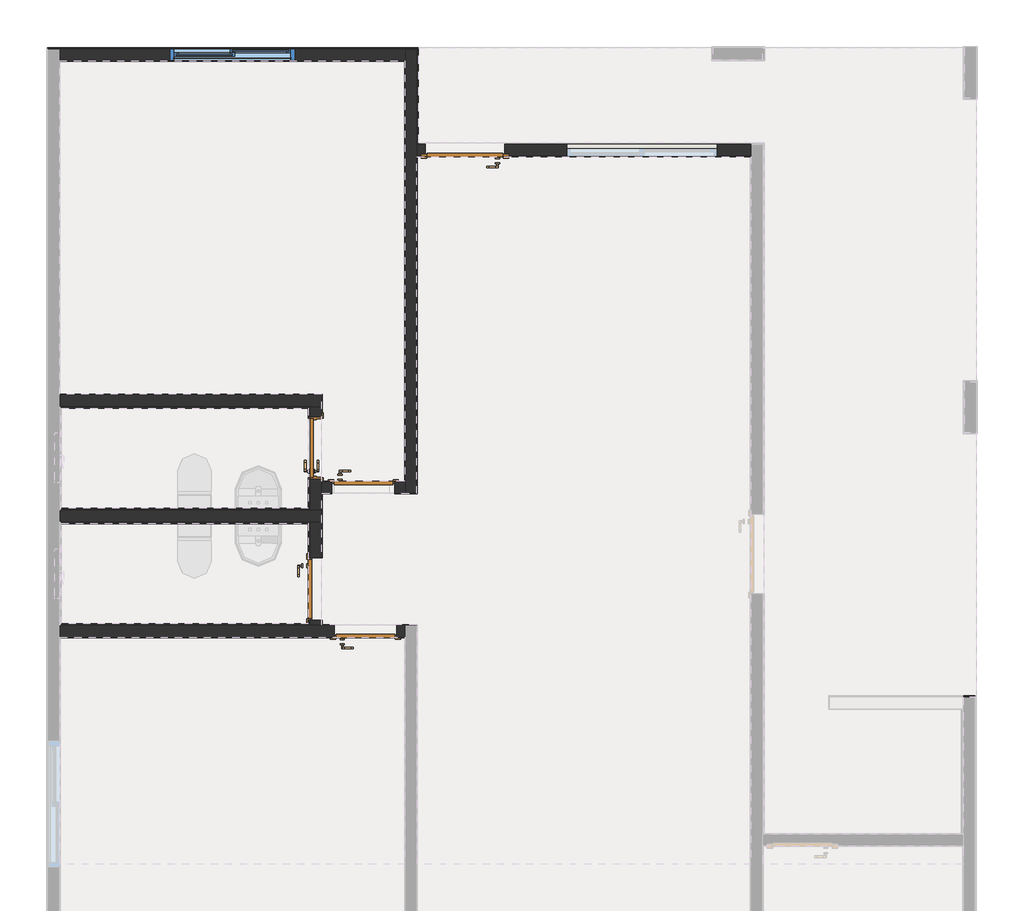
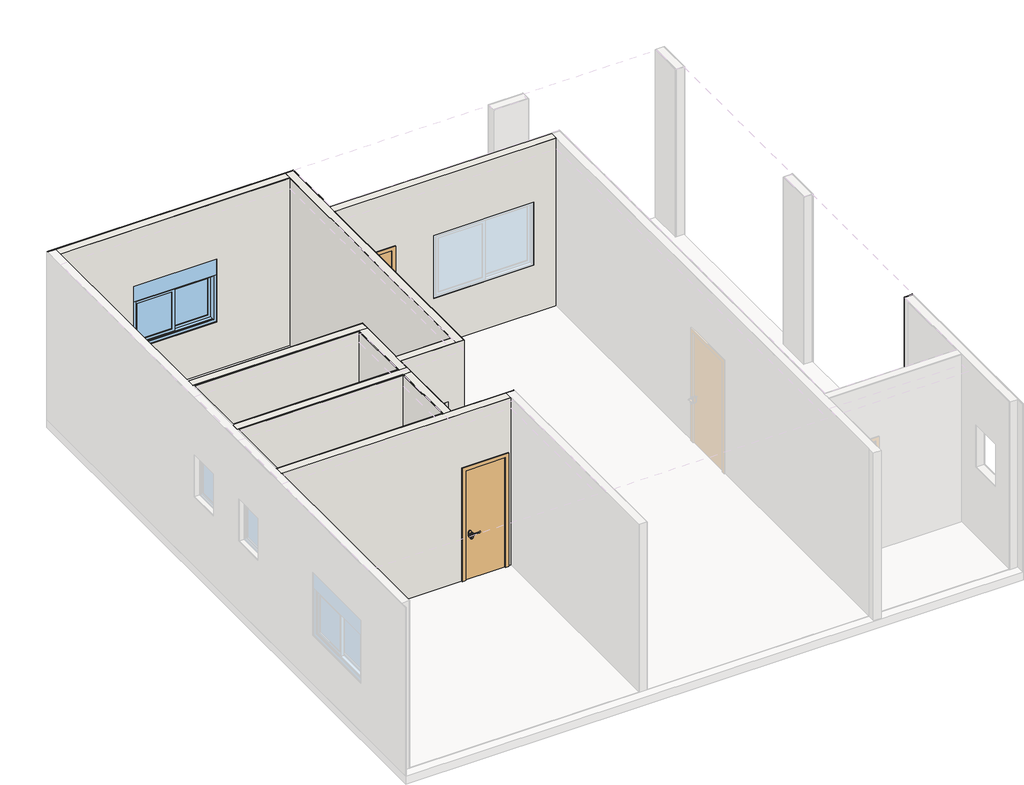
# One storey, part 2 of 3: 29 walls, 5 doors, 1 window.
"""IFC4 building model written with IfcOpenShell, lengths in millimetres."""

from ifc_helpers import new_model, si_unit, frame, origin, origin_with_axes, place, context, project, spatial, polyline, outline, extrude, faceted_brep, transform, mapped, element, save
from components import porta_de_madeira_interna_70_x_210_porta_de_madeira_interna_d0067c94, porta_de_madeira_interna_70_x_210_porta_de_madeira_interna_7f2c299e, porta_de_madeira_interna_70_x_210_porta_de_madeira_interna_a3714ee7, porta_de_madeira_interna_70_x_210_porta_de_madeira_interna_c85fdb76, porta_de_madeira_interna_90x210_porta_de_madeira_interna_90_e78495d9, window_150x120_d34a449e

model = new_model("IFC4")

# Units and contexts
model_context = context("Model", 3, world=origin())
ifc_project = project(units=[si_unit("LENGTHUNIT", "METRE", prefix="MILLI")], contexts=[model_context])

# Site, building, storey
site = spatial("IfcSite", under=ifc_project)
building = spatial("IfcBuilding", under=site)
storey = spatial("IfcBuildingStorey", under=building, Name="Térreo", Elevation=0.0)

# Doors
placement = place(None, origin())
porta_de_madeira_interna_70_x_210_porta_de_madeira_interna_shape = porta_de_madeira_interna_70_x_210_porta_de_madeira_interna_d0067c94(model_context)
element("IfcDoor", 1, ObjectType="Porta de Madeira Interna 70 x 210 : Porta de Madeira Interna 70 x 210", at=placement, inside=storey, context=model_context, shape_type="MappedRepresentation", body=[
    mapped(porta_de_madeira_interna_70_x_210_porta_de_madeira_interna_shape, transform((34932.8220535, 10452.9995833, 0.0), x_axis=(0.0, 1.0, 0.0), y_axis=(-1.0, 0.0, 0.0), z_axis=(0.0, 0.0, 1.0))),
])
porta_de_madeira_interna_70_x_210_porta_de_madeira_interna_2_shape = porta_de_madeira_interna_70_x_210_porta_de_madeira_interna_7f2c299e(model_context)
element("IfcDoor", 2, ObjectType="Porta de Madeira Interna 70 x 210 : Porta de Madeira Interna 70 x 210", at=placement, inside=storey, context=model_context, shape_type="MappedRepresentation", body=[
    mapped(porta_de_madeira_interna_70_x_210_porta_de_madeira_interna_2_shape, transform((35530.9970535, 8181.8245833, 0.0), x_axis=(1.0, 0.0, 0.0), y_axis=(0.0, 1.0, 0.0), z_axis=(0.0, 0.0, 1.0))),
])
porta_de_madeira_interna_70_x_210_porta_de_madeira_interna_3_shape = porta_de_madeira_interna_70_x_210_porta_de_madeira_interna_a3714ee7(model_context)
element("IfcDoor", 3, ObjectType="Porta de Madeira Interna 70 x 210 : Porta de Madeira Interna 70 x 210", at=placement, inside=storey, context=model_context, shape_type="MappedRepresentation", body=[
    mapped(porta_de_madeira_interna_70_x_210_porta_de_madeira_interna_3_shape, transform((35502.9970535, 10054.1745833, 0.0), x_axis=(1.0, 0.0, 0.0), y_axis=(0.0, 1.0, 0.0), z_axis=(0.0, 0.0, 1.0))),
])
porta_de_madeira_interna_70_x_210_porta_de_madeira_interna_4_shape = porta_de_madeira_interna_70_x_210_porta_de_madeira_interna_c85fdb76(model_context)
element("IfcDoor", 4, ObjectType="Porta de Madeira Interna 70 x 210 : Porta de Madeira Interna 70 x 210", at=placement, inside=storey, context=model_context, shape_type="MappedRepresentation", body=[
    mapped(porta_de_madeira_interna_70_x_210_porta_de_madeira_interna_4_shape, transform((34852.8220535, 8762.9995833, 0.0), x_axis=(0.0, -1.0, 0.0), y_axis=(1.0, 0.0, 0.0), z_axis=(0.0, 0.0, 1.0))),
])
porta_de_madeira_interna_90x210_porta_de_madeira_interna_90_shape = porta_de_madeira_interna_90x210_porta_de_madeira_interna_90_e78495d9(model_context)
element("IfcDoor", 5, ObjectType="Porta de Madeira Interna 90x210 : Porta de Madeira Interna 90 x 210", at=placement, inside=storey, context=model_context, shape_type="MappedRepresentation", body=[
    mapped(porta_de_madeira_interna_90x210_porta_de_madeira_interna_90_shape, transform((36720.9970535, 13941.8245833, 0.0), x_axis=(-1.0, 0.0, 0.0), y_axis=(0.0, -1.0, 0.0), z_axis=(0.0, 0.0, 1.0))),
])

# Walls
element("IfcWall", 6, ObjectType="Alvenaria Estrutural", at=placement, inside=storey, context=model_context, shape_type="Brep", body=[
    faceted_brep([(36005.9970535, 15227.9995833, 0.0), (36005.9970535, 15087.9995833, 0.0), (36005.9970535, 15081.9995833, 0.0), (36005.9970535, 10047.9995833, 0.0), (36005.9970535, 9907.9995833, 0.0), (36005.9970535, 9907.9995833, 3200.0), (36005.9970535, 10047.9995833, 3200.0), (36005.9970535, 15081.9995833, 3200.0), (36005.9970535, 15087.9995833, 3200.0), (36005.9970535, 15227.9995833, 3200.0), (36145.9970535, 15227.9995833, 0.0), (36145.9970535, 15227.9995833, 3200.0), (36145.9970535, 14103.9995833, 3200.0), (36145.9970535, 14087.9995833, 3200.0), (36145.9970535, 13947.9995833, 3200.0), (36145.9970535, 13941.9995833, 3200.0), (36145.9970535, 9907.9995833, 3200.0), (36145.9970535, 9907.9995833, 0.0), (36145.9970535, 13941.9995833, 0.0), (36145.9970535, 13947.9995833, 0.0), (36145.9970535, 14087.9995833, 0.0), (36145.9970535, 14103.9995833, 0.0)], [[[0, 1, 2, 3, 4, 5, 6, 7, 8, 9]], [[10, 11, 12, 13, 14, 15, 16, 17, 18, 19, 20, 21]], [[1, 0, 10, 21, 20, 19, 18, 17, 4, 3, 2]], [[6, 5, 16, 15, 14, 13, 12, 11, 9, 8, 7]], [[0, 9, 11, 10]], [[5, 4, 17, 16]]]),
])
element("IfcWall", 7, ObjectType="Alvenaria Estrutural", at=placement, inside=storey, context=model_context, shape_type="Brep", body=[
    faceted_brep([(35005.9970535, 11087.9995833, 0.0), (31865.9970535, 11087.9995833, 0.0), (31865.9970535, 11087.9995833, 3200.0), (35005.9970535, 11087.9995833, 3200.0), (35005.9970535, 10947.9995833, 0.0), (35005.9970535, 10947.9995833, 3200.0), (34865.9970535, 10947.9995833, 3200.0), (31885.9970535, 10947.9995833, 3200.0), (31865.9970535, 10947.9995833, 3200.0), (31865.9970535, 10947.9995833, 0.0), (31885.9970535, 10947.9995833, 0.0), (34865.9970535, 10947.9995833, 0.0)], [[[0, 1, 2, 3]], [[4, 5, 6, 7, 8, 9, 10, 11]], [[1, 0, 4, 11, 10, 9]], [[3, 2, 8, 7, 6, 5]], [[2, 1, 9, 8]], [[0, 3, 5, 4]]]),
])
element("IfcWall", 8, ObjectType="Alvenaria Estrutural", at=placement, inside=storey, context=model_context, shape_type="Brep", body=[
    faceted_brep([(31865.9970535, 8327.9995833, 3200.0), (31885.9970535, 8327.9995833, 3200.0), (34845.9970535, 8327.9995833, 3200.0), (34865.9970535, 8327.9995833, 3200.0), (35005.9970535, 8327.9995833, 3200.0), (36005.9970535, 8327.9995833, 3200.0), (36005.9970535, 8327.9995833, 0.0), (35905.9970535, 8327.9995833, 0.0), (35905.9970535, 8327.9995833, 2125.0), (35155.9970535, 8327.9995833, 2125.0), (35155.9970535, 8327.9995833, 0.0), (35005.9970535, 8327.9995833, 0.0), (31885.9970535, 8327.9995833, 0.0), (31865.9970535, 8327.9995833, 0.0), (36005.9970535, 8187.9995833, 3200.0), (35999.9970535, 8187.9995833, 3200.0), (31871.9970535, 8187.9995833, 3200.0), (31865.9970535, 8187.9995833, 3200.0), (31865.9970535, 8187.9995833, 0.0), (31871.9970535, 8187.9995833, 0.0), (35155.9970535, 8187.9995833, 0.0), (35155.9970535, 8187.9995833, 2125.0), (35905.9970535, 8187.9995833, 2125.0), (35905.9970535, 8187.9995833, 0.0), (35999.9970535, 8187.9995833, 0.0), (36005.9970535, 8187.9995833, 0.0)], [[[0, 1, 2, 3, 4, 5, 6, 7, 8, 9, 10, 11, 12, 13]], [[14, 15, 16, 17, 18, 19, 20, 21, 22, 23, 24, 25]], [[7, 6, 25, 24, 23]], [[1, 0, 17, 16, 15, 14, 5, 4, 3, 2]], [[6, 5, 14, 25]], [[0, 13, 18, 17]], [[8, 7, 23, 22]], [[9, 8, 22, 21]], [[10, 9, 21, 20]], [[11, 10, 20, 19, 18, 13, 12]]]),
])
element("IfcWall", 9, ObjectType="Alvenaria Estrutural", at=placement, inside=storey, context=model_context, shape_type="Brep", body=[
    faceted_brep([(31865.9970535, 9567.9995833, 0.0), (31885.9970535, 9567.9995833, 0.0), (34845.9970535, 9567.9995833, 0.0), (34865.9970535, 9567.9995833, 0.0), (35005.9970535, 9567.9995833, 0.0), (35005.9970535, 9567.9995833, 3200.0), (34865.9970535, 9567.9995833, 3200.0), (34845.9970535, 9567.9995833, 3200.0), (31885.9970535, 9567.9995833, 3200.0), (31865.9970535, 9567.9995833, 3200.0), (31865.9970535, 9707.9995833, 0.0), (31865.9970535, 9707.9995833, 3200.0), (31885.9970535, 9707.9995833, 3200.0), (34865.9970535, 9707.9995833, 3200.0), (35005.9970535, 9707.9995833, 3200.0), (35005.9970535, 9707.9995833, 0.0), (34865.9970535, 9707.9995833, 0.0), (31885.9970535, 9707.9995833, 0.0)], [[[0, 1, 2, 3, 4, 5, 6, 7, 8, 9]], [[10, 11, 12, 13, 14, 15, 16, 17]], [[1, 0, 10, 17, 16, 15, 4, 3, 2]], [[6, 5, 14, 13, 12, 11, 9, 8, 7]], [[0, 9, 11, 10]], [[5, 4, 15, 14]]]),
])
element("IfcWall", 10, ObjectType="Alvenaria Estrutural", at=placement, inside=storey, context=model_context, shape_type="Brep", body=[
    faceted_brep([(34865.9970535, 8327.9995833, 3200.0), (34865.9970535, 8347.9995833, 3200.0), (34865.9970535, 9547.9995833, 3200.0), (34865.9970535, 9567.9995833, 3200.0), (34865.9970535, 9567.9995833, 0.0), (34865.9970535, 9547.9995833, 0.0), (34865.9970535, 9137.9995833, 0.0), (34865.9970535, 9137.9995833, 2125.0), (34865.9970535, 8387.9995833, 2125.0), (34865.9970535, 8387.9995833, 0.0), (34865.9970535, 8347.9995833, 0.0), (34865.9970535, 8327.9995833, 0.0), (35005.9970535, 9567.9995833, 3200.0), (35005.9970535, 8333.9995833, 3200.0), (35005.9970535, 8327.9995833, 3200.0), (35005.9970535, 8327.9995833, 0.0), (35005.9970535, 8333.9995833, 0.0), (35005.9970535, 8387.9995833, 0.0), (35005.9970535, 8387.9995833, 2125.0), (35005.9970535, 9137.9995833, 2125.0), (35005.9970535, 9137.9995833, 0.0), (35005.9970535, 9567.9995833, 0.0)], [[[0, 1, 2, 3, 4, 5, 6, 7, 8, 9, 10, 11]], [[12, 13, 14, 15, 16, 17, 18, 19, 20, 21]], [[5, 4, 21, 20, 6]], [[1, 0, 14, 13, 12, 3, 2]], [[4, 3, 12, 21]], [[0, 11, 15, 14]], [[9, 8, 18, 17]], [[8, 7, 19, 18]], [[7, 6, 20, 19]], [[10, 9, 17, 16, 15, 11]]]),
])
element("IfcWall", 11, ObjectType="Alvenaria Estrutural", at=placement, inside=storey, context=model_context, shape_type="Brep", body=[
    faceted_brep([(35005.9970535, 10947.9995833, 3200.0), (35005.9970535, 10053.9995833, 3200.0), (35005.9970535, 10047.9995833, 3200.0), (35005.9970535, 9907.9995833, 3200.0), (35005.9970535, 9901.9995833, 3200.0), (35005.9970535, 9707.9995833, 3200.0), (35005.9970535, 9707.9995833, 0.0), (35005.9970535, 9901.9995833, 0.0), (35005.9970535, 9907.9995833, 0.0), (35005.9970535, 10047.9995833, 0.0), (35005.9970535, 10053.9995833, 0.0), (35005.9970535, 10077.9995833, 0.0), (35005.9970535, 10077.9995833, 2125.0), (35005.9970535, 10827.9995833, 2125.0), (35005.9970535, 10827.9995833, 0.0), (35005.9970535, 10947.9995833, 0.0), (34865.9970535, 9707.9995833, 3200.0), (34865.9970535, 9727.9995833, 3200.0), (34865.9970535, 10927.9995833, 3200.0), (34865.9970535, 10947.9995833, 3200.0), (34865.9970535, 10947.9995833, 0.0), (34865.9970535, 10927.9995833, 0.0), (34865.9970535, 10827.9995833, 0.0), (34865.9970535, 10827.9995833, 2125.0), (34865.9970535, 10077.9995833, 2125.0), (34865.9970535, 10077.9995833, 0.0), (34865.9970535, 9727.9995833, 0.0), (34865.9970535, 9707.9995833, 0.0)], [[[0, 1, 2, 3, 4, 5, 6, 7, 8, 9, 10, 11, 12, 13, 14, 15]], [[16, 17, 18, 19, 20, 21, 22, 23, 24, 25, 26, 27]], [[7, 6, 27, 26, 25, 11, 10, 9, 8]], [[1, 0, 19, 18, 17, 16, 5, 4, 3, 2]], [[6, 5, 16, 27]], [[0, 15, 20, 19]], [[14, 13, 23, 22]], [[13, 12, 24, 23]], [[12, 11, 25, 24]], [[15, 14, 22, 21, 20]]]),
])
element("IfcWall", 12, ObjectType="Alvenaria Estrutural", at=placement, inside=storey, context=model_context, shape_type="SweptSolid", body=[
    extrude(outline(polyline([(0.0, 31865.9970535), (0.0, 36005.9970535), (3200.0, 36005.9970535), (3200.0, 31865.9970535), (0.0, 31865.9970535)]), holes=[polyline([(920.0, 34685.9970535), (920.0, 33185.9970535), (2120.0, 33185.9970535), (2120.0, 34685.9970535), (920.0, 34685.9970535)])]), frame((0.0, 15087.9995833, 0.0), z_axis=(0.0, 1.0, 0.0), x_axis=(0.0, 0.0, 1.0)), (0.0, 0.0, 1.0), 140.0),
])
element("IfcWall", 13, ObjectType="Alvenaria Estrutural", at=placement, inside=storey, context=model_context, shape_type="Brep", body=[
    faceted_brep([(40145.9970535, 13947.9995833, 3200.0), (40139.9970535, 13947.9995833, 3200.0), (36151.9970535, 13947.9995833, 3200.0), (36145.9970535, 13947.9995833, 3200.0), (36145.9970535, 13947.9995833, 0.0), (36151.9970535, 13947.9995833, 0.0), (36245.9970535, 13947.9995833, 0.0), (36245.9970535, 13947.9995833, 2125.0), (37195.9970535, 13947.9995833, 2125.0), (37195.9970535, 13947.9995833, 0.0), (40139.9970535, 13947.9995833, 0.0), (40145.9970535, 13947.9995833, 0.0), (37939.9970535, 13947.9995833, 920.0), (37939.9970535, 13947.9995833, 2120.0), (39739.9970535, 13947.9995833, 2120.0), (39739.9970535, 13947.9995833, 920.0), (36145.9970535, 14087.9995833, 3200.0), (36161.9970535, 14087.9995833, 3200.0), (40145.9970535, 14087.9995833, 3200.0), (40145.9970535, 14087.9995833, 0.0), (37195.9970535, 14087.9995833, 0.0), (37195.9970535, 14087.9995833, 2125.0), (36245.9970535, 14087.9995833, 2125.0), (36245.9970535, 14087.9995833, 0.0), (36161.9970535, 14087.9995833, 0.0), (36145.9970535, 14087.9995833, 0.0), (37939.9970535, 14087.9995833, 920.0), (39739.9970535, 14087.9995833, 920.0), (39739.9970535, 14087.9995833, 2120.0), (37939.9970535, 14087.9995833, 2120.0)], [[[0, 1, 2, 3, 4, 5, 6, 7, 8, 9, 10, 11], [12, 13, 14, 15]], [[16, 17, 18, 19, 20, 21, 22, 23, 24, 25], [26, 27, 28, 29]], [[5, 4, 25, 24, 23, 6]], [[1, 0, 18, 17, 16, 3, 2]], [[4, 3, 16, 25]], [[0, 11, 19, 18]], [[7, 6, 23, 22]], [[8, 7, 22, 21]], [[9, 8, 21, 20]], [[13, 12, 26, 29]], [[14, 13, 29, 28]], [[15, 14, 28, 27]], [[12, 15, 27, 26]], [[10, 9, 20, 19, 11]]]),
])
element("IfcWall", 14, ObjectType="Alvenaria Estrutural", at=placement, inside=storey, context=model_context, shape_type="Brep", body=[
    faceted_brep([(35005.9970535, 10047.9995833, 3200.0), (35011.9970535, 10047.9995833, 3200.0), (35999.9970535, 10047.9995833, 3200.0), (36005.9970535, 10047.9995833, 3200.0), (36005.9970535, 10047.9995833, 0.0), (35999.9970535, 10047.9995833, 0.0), (35877.9970535, 10047.9995833, 0.0), (35877.9970535, 10047.9995833, 2125.0), (35127.9970535, 10047.9995833, 2125.0), (35127.9970535, 10047.9995833, 0.0), (35011.9970535, 10047.9995833, 0.0), (35005.9970535, 10047.9995833, 0.0), (36005.9970535, 9907.9995833, 3200.0), (35011.9970535, 9907.9995833, 3200.0), (35005.9970535, 9907.9995833, 3200.0), (35005.9970535, 9907.9995833, 0.0), (35011.9970535, 9907.9995833, 0.0), (35127.9970535, 9907.9995833, 0.0), (35127.9970535, 9907.9995833, 2125.0), (35877.9970535, 9907.9995833, 2125.0), (35877.9970535, 9907.9995833, 0.0), (36005.9970535, 9907.9995833, 0.0)], [[[0, 1, 2, 3, 4, 5, 6, 7, 8, 9, 10, 11]], [[12, 13, 14, 15, 16, 17, 18, 19, 20, 21]], [[5, 4, 21, 20, 6]], [[1, 0, 14, 13, 12, 3, 2]], [[4, 3, 12, 21]], [[0, 11, 15, 14]], [[7, 6, 20, 19]], [[8, 7, 19, 18]], [[9, 8, 18, 17]], [[10, 9, 17, 16, 15, 11]]]),
])
element("IfcWall", 15, ObjectType="Azulejo", at=placement, inside=storey, context=model_context, shape_type="SweptSolid", body=[
    extrude(outline(polyline([(31865.9970535, 8347.9995833), (34865.9970535, 8347.9995833), (34865.9970535, 8337.9995833), (31865.9970535, 8337.9995833), (31865.9970535, 8347.9995833)])), origin_with_axes(), (0.0, 0.0, 1.0), 3200.0),
    extrude(outline(polyline([(34865.9970535, 8327.9995833), (31865.9970535, 8327.9995833), (31865.9970535, 8337.9995833), (34865.9970535, 8337.9995833), (34865.9970535, 8327.9995833)])), origin_with_axes(), (0.0, 0.0, 1.0), 3200.0),
])
element("IfcWall", 16, ObjectType="Azulejo", at=placement, inside=storey, context=model_context, shape_type="SweptSolid", body=[
    extrude(outline(polyline([(8327.9995833, 3200.0), (9567.9995833, 3200.0), (9567.9995833, 0.0), (9137.9995833, 0.0), (9137.9995833, 2125.0), (8387.9995833, 2125.0), (8387.9995833, 0.0), (8327.9995833, 0.0), (8327.9995833, 3200.0)])), frame((34845.9970535, 0.0, 0.0), z_axis=(1.0, 0.0, 0.0), x_axis=(0.0, 1.0, 0.0)), (0.0, 0.0, 1.0), 10.0),
    extrude(outline(polyline([(8387.9995833, 0.0), (8327.9995833, 0.0), (8327.9995833, 3200.0), (9567.9995833, 3200.0), (9567.9995833, 0.0), (9137.9995833, 0.0), (9137.9995833, 2125.0), (8387.9995833, 2125.0), (8387.9995833, 0.0)])), frame((34855.9970535, 0.0, 0.0), z_axis=(1.0, 0.0, 0.0), x_axis=(0.0, 1.0, 0.0)), (0.0, 0.0, 1.0), 10.0),
])
element("IfcWall", 17, ObjectType="Azulejo", at=placement, inside=storey, context=model_context, shape_type="SweptSolid", body=[
    extrude(outline(polyline([(34865.9970535, 9547.9995833), (31865.9970535, 9547.9995833), (31865.9970535, 9557.9995833), (34865.9970535, 9557.9995833), (34865.9970535, 9547.9995833)])), origin_with_axes(), (0.0, 0.0, 1.0), 3200.0),
    extrude(outline(polyline([(31865.9970535, 9567.9995833), (34865.9970535, 9567.9995833), (34865.9970535, 9557.9995833), (31865.9970535, 9557.9995833), (31865.9970535, 9567.9995833)])), origin_with_axes(), (0.0, 0.0, 1.0), 3200.0),
])
element("IfcWall", 18, ObjectType="Azulejo", at=placement, inside=storey, context=model_context, shape_type="SolidModel", body=[
    faceted_brep([(31865.9970535, 9717.9995833, 0.0), (31865.9970535, 9727.9995833, 0.0), (34845.9970535, 9727.9995833, 0.0), (34855.9970535, 9727.9995833, 0.0), (34855.9970535, 9717.9995833, 0.0), (34845.9970535, 9727.9995833, 3200.0), (31865.9970535, 9727.9995833, 3200.0), (31865.9970535, 9717.9995833, 3200.0), (34855.9970535, 9717.9995833, 3200.0), (34855.9970535, 9727.9995833, 3200.0)], [[[0, 1, 2, 3, 4]], [[5, 6, 7, 8, 9]], [[1, 0, 7, 6]], [[7, 0, 4, 8]], [[2, 1, 6, 5, 9, 3]], [[4, 3, 9, 8]]]),
    extrude(outline(polyline([(34865.9970535, 9707.9995833), (31865.9970535, 9707.9995833), (31865.9970535, 9717.9995833), (34865.9970535, 9717.9995833), (34865.9970535, 9707.9995833)])), origin_with_axes(), (0.0, 0.0, 1.0), 3200.0),
])
element("IfcWall", 19, ObjectType="Azulejo", at=placement, inside=storey, context=model_context, shape_type="SolidModel", body=[
    faceted_brep([(34845.9970535, 10927.9995833, 0.0), (31885.9970535, 10927.9995833, 0.0), (31885.9970535, 10937.9995833, 0.0), (34855.9970535, 10937.9995833, 0.0), (34855.9970535, 10927.9995833, 0.0), (31885.9970535, 10937.9995833, 3200.0), (31885.9970535, 10927.9995833, 3200.0), (34845.9970535, 10927.9995833, 3200.0), (34855.9970535, 10927.9995833, 3200.0), (34855.9970535, 10937.9995833, 3200.0)], [[[0, 1, 2, 3, 4]], [[5, 6, 7, 8, 9]], [[2, 1, 6, 5]], [[2, 5, 9, 3]], [[1, 0, 4, 8, 7, 6]], [[4, 3, 9, 8]]]),
    extrude(outline(polyline([(31875.9970535, 10947.9995833), (34865.9970535, 10947.9995833), (34865.9970535, 10937.9995833), (31875.9970535, 10937.9995833), (31875.9970535, 10947.9995833)])), origin_with_axes(), (0.0, 0.0, 1.0), 3200.0),
])
element("IfcWall", 20, ObjectType="Azulejo", at=placement, inside=storey, context=model_context, shape_type="SweptSolid", body=[
    extrude(outline(polyline([(9727.9995833, 3200.0), (10927.9995833, 3200.0), (10927.9995833, 0.0), (10827.9995833, 0.0), (10827.9995833, 2125.0), (10077.9995833, 2125.0), (10077.9995833, 0.0), (9727.9995833, 0.0), (9727.9995833, 3200.0)])), frame((34845.9970535, 0.0, 0.0), z_axis=(1.0, 0.0, 0.0), x_axis=(0.0, 1.0, 0.0)), (0.0, 0.0, 1.0), 10.0),
    extrude(outline(polyline([(10937.9995833, 0.0), (10827.9995833, 0.0), (10827.9995833, 2125.0), (10077.9995833, 2125.0), (10077.9995833, 0.0), (9717.9995833, 0.0), (9717.9995833, 3200.0), (10937.9995833, 3200.0), (10937.9995833, 0.0)])), frame((34855.9970535, 0.0, 0.0), z_axis=(1.0, 0.0, 0.0), x_axis=(0.0, 1.0, 0.0)), (0.0, 0.0, 1.0), 10.0),
])
element("IfcWall", 21, ObjectType="Gesso Liso + Pintura", at=placement, inside=storey, context=model_context, shape_type="SweptSolid", body=[
    extrude(outline(polyline([(36005.9970535, 15082.9995833), (36005.9970535, 15081.9995833), (36004.9970535, 15081.9995833), (36004.9970535, 15082.9995833), (36005.9970535, 15082.9995833)])), origin_with_axes(), (0.0, 0.0, 1.0), 3200.0),
    extrude(outline(polyline([(0.0, 31865.9970535), (0.0, 35999.9970535), (3200.0, 35999.9970535), (3200.0, 31865.9970535), (0.0, 31865.9970535)]), holes=[polyline([(920.0, 34685.9970535), (920.0, 33185.9970535), (2120.0, 33185.9970535), (2120.0, 34685.9970535), (920.0, 34685.9970535)])]), frame((0.0, 15081.9995833, 0.0), z_axis=(0.0, 1.0, 0.0), x_axis=(0.0, 0.0, 1.0)), (0.0, 0.0, 1.0), 1.0),
    extrude(outline(polyline([(0.0, 31865.9970535), (0.0, 36005.9970535), (3200.0, 36005.9970535), (3200.0, 31865.9970535), (0.0, 31865.9970535)]), holes=[polyline([(2120.0, 34685.9970535), (920.0, 34685.9970535), (920.0, 33185.9970535), (2120.0, 33185.9970535), (2120.0, 34685.9970535)])]), frame((0.0, 15082.9995833, 0.0), z_axis=(0.0, 1.0, 0.0), x_axis=(0.0, 0.0, 1.0)), (0.0, 0.0, 1.0), 5.0),
])
element("IfcWall", 22, ObjectType="Gesso Liso + Pintura", at=placement, inside=storey, context=model_context, shape_type="SolidModel", body=[
    extrude(outline(polyline([(36005.9970535, 15081.9995833), (36005.9970535, 10047.9995833), (36004.9970535, 10047.9995833), (36004.9970535, 15081.9995833), (36005.9970535, 15081.9995833)])), origin_with_axes(), (0.0, 0.0, 1.0), 3200.0),
    faceted_brep([(36004.9970535, 10047.9995833, 0.0), (36004.9970535, 15082.9995833, 0.0), (36004.9970535, 15082.9995833, 3200.0), (36004.9970535, 10047.9995833, 3200.0), (35999.9970535, 15082.9995833, 0.0), (35999.9970535, 10053.9995833, 0.0), (35999.9970535, 10047.9995833, 0.0), (35999.9970535, 10047.9995833, 3200.0), (35999.9970535, 10053.9995833, 3200.0), (35999.9970535, 15082.9995833, 3200.0)], [[[0, 1, 2, 3]], [[4, 5, 6, 7, 8, 9]], [[5, 4, 1, 0, 6]], [[8, 7, 3, 2, 9]], [[7, 6, 0, 3]], [[4, 9, 2, 1]]]),
])
element("IfcWall", 23, ObjectType="Gesso Liso + Pintura", at=placement, inside=storey, context=model_context, shape_type="SweptSolid", body=[
    extrude(outline(polyline([(3200.0, 35999.9970535), (3200.0, 35005.9970535), (0.0, 35005.9970535), (0.0, 35127.9970535), (2125.0, 35127.9970535), (2125.0, 35877.9970535), (0.0, 35877.9970535), (0.0, 35999.9970535), (3200.0, 35999.9970535)])), frame((0.0, 10047.9995833, 0.0), z_axis=(0.0, 1.0, 0.0), x_axis=(0.0, 0.0, 1.0)), (0.0, 0.0, 1.0), 1.0),
    extrude(outline(polyline([(0.0, 35877.9970535), (0.0, 35999.9970535), (3200.0, 35999.9970535), (3200.0, 35005.9970535), (0.0, 35005.9970535), (0.0, 35127.9970535), (2125.0, 35127.9970535), (2125.0, 35877.9970535), (0.0, 35877.9970535)])), frame((0.0, 10048.9995833, 0.0), z_axis=(0.0, 1.0, 0.0), x_axis=(0.0, 0.0, 1.0)), (0.0, 0.0, 1.0), 5.0),
])
element("IfcWall", 24, ObjectType="Gesso Liso + Pintura", at=placement, inside=storey, context=model_context, shape_type="SolidModel", body=[
    faceted_brep([(35005.9970535, 10047.9995833, 0.0), (35005.9970535, 10077.9995833, 0.0), (35006.9970535, 10077.9995833, 0.0), (35006.9970535, 10047.9995833, 0.0), (35005.9970535, 10947.9995833, 3200.0), (35005.9970535, 10047.9995833, 3200.0), (35006.9970535, 10047.9995833, 3200.0), (35006.9970535, 11088.9995833, 3200.0), (35005.9970535, 11088.9995833, 3200.0), (35005.9970535, 11087.9995833, 3200.0), (35005.9970535, 10827.9995833, 2125.0), (35005.9970535, 10827.9995833, 0.0), (35006.9970535, 10827.9995833, 0.0), (35006.9970535, 10827.9995833, 2125.0), (35005.9970535, 10077.9995833, 2125.0), (35006.9970535, 10077.9995833, 2125.0), (35005.9970535, 11087.9995833, 0.0), (35005.9970535, 11088.9995833, 0.0), (35006.9970535, 11088.9995833, 0.0), (35005.9970535, 10947.9995833, 0.0)], [[[0, 1, 2, 3]], [[4, 5, 6, 7, 8, 9]], [[5, 0, 3, 6]], [[10, 11, 12, 13]], [[14, 10, 13, 15]], [[1, 14, 15, 2]], [[16, 17, 18, 12, 11, 19]], [[3, 2, 15, 13, 12, 18, 7, 6]], [[5, 4, 9, 8, 17, 16, 19, 11, 10, 14, 1, 0]], [[17, 8, 7, 18]]]),
    extrude(outline(polyline([(10077.9995833, 0.0), (10047.9995833, 0.0), (10047.9995833, 3200.0), (11093.9995833, 3200.0), (11093.9995833, 0.0), (10827.9995833, 0.0), (10827.9995833, 2125.0), (10077.9995833, 2125.0), (10077.9995833, 0.0)])), frame((35006.9970535, 0.0, 0.0), z_axis=(1.0, 0.0, 0.0), x_axis=(0.0, 1.0, 0.0)), (0.0, 0.0, 1.0), 5.0),
])
element("IfcWall", 25, ObjectType="Gesso Liso + Pintura", at=placement, inside=storey, context=model_context, shape_type="SweptSolid", body=[
    extrude(outline(polyline([(35005.9970535, 11087.9995833), (31865.9970535, 11087.9995833), (31865.9970535, 11088.9995833), (35005.9970535, 11088.9995833), (35005.9970535, 11087.9995833)])), origin_with_axes(), (0.0, 0.0, 1.0), 3200.0),
    extrude(outline(polyline([(31865.9970535, 11093.9995833), (35006.9970535, 11093.9995833), (35006.9970535, 11088.9995833), (31865.9970535, 11088.9995833), (31865.9970535, 11093.9995833)])), origin_with_axes(), (0.0, 0.0, 1.0), 3200.0),
])
element("IfcWall", 26, ObjectType="Gesso Liso + Pintura", at=placement, inside=storey, context=model_context, shape_type="SolidModel", body=[
    faceted_brep([(35005.9970535, 9907.9995833, 0.0), (35127.9970535, 9907.9995833, 0.0), (35127.9970535, 9906.9995833, 0.0), (35005.9970535, 9906.9995833, 0.0), (36005.9970535, 9907.9995833, 3200.0), (35005.9970535, 9907.9995833, 3200.0), (35005.9970535, 9906.9995833, 3200.0), (36146.9970535, 9906.9995833, 3200.0), (36146.9970535, 9907.9995833, 3200.0), (36145.9970535, 9907.9995833, 3200.0), (35877.9970535, 9907.9995833, 2125.0), (35877.9970535, 9907.9995833, 0.0), (35877.9970535, 9906.9995833, 0.0), (35877.9970535, 9906.9995833, 2125.0), (35127.9970535, 9907.9995833, 2125.0), (35127.9970535, 9906.9995833, 2125.0), (36145.9970535, 9907.9995833, 0.0), (36146.9970535, 9907.9995833, 0.0), (36146.9970535, 9906.9995833, 0.0), (36005.9970535, 9907.9995833, 0.0)], [[[0, 1, 2, 3]], [[4, 5, 6, 7, 8, 9]], [[5, 0, 3, 6]], [[10, 11, 12, 13]], [[14, 10, 13, 15]], [[1, 14, 15, 2]], [[16, 17, 18, 12, 11, 19]], [[3, 2, 15, 13, 12, 18, 7, 6]], [[5, 4, 9, 8, 17, 16, 19, 11, 10, 14, 1, 0]], [[17, 8, 7, 18]]]),
    extrude(outline(polyline([(3200.0, 36151.9970535), (3200.0, 35005.9970535), (0.0, 35005.9970535), (0.0, 35127.9970535), (2125.0, 35127.9970535), (2125.0, 35877.9970535), (0.0, 35877.9970535), (0.0, 36151.9970535), (3200.0, 36151.9970535)])), frame((0.0, 9901.9995833, 0.0), z_axis=(0.0, 1.0, 0.0), x_axis=(0.0, 0.0, 1.0)), (0.0, 0.0, 1.0), 5.0),
])
element("IfcWall", 27, ObjectType="Gesso Liso + Pintura", at=placement, inside=storey, context=model_context, shape_type="SweptSolid", body=[
    extrude(outline(polyline([(36145.9970535, 9907.9995833), (36145.9970535, 13947.9995833), (36146.9970535, 13947.9995833), (36146.9970535, 9907.9995833), (36145.9970535, 9907.9995833)])), origin_with_axes(), (0.0, 0.0, 1.0), 3200.0),
    extrude(outline(polyline([(36151.9970535, 13947.9995833), (36151.9970535, 9906.9995833), (36146.9970535, 9906.9995833), (36146.9970535, 13947.9995833), (36151.9970535, 13947.9995833)])), origin_with_axes(), (0.0, 0.0, 1.0), 3200.0),
])
element("IfcWall", 28, ObjectType="Gesso Liso + Pintura", at=placement, inside=storey, context=model_context, shape_type="SweptSolid", body=[
    extrude(outline(polyline([(0.0, 36145.9970535), (0.0, 36245.9970535), (2125.0, 36245.9970535), (2125.0, 37195.9970535), (0.0, 37195.9970535), (0.0, 40145.9970535), (3200.0, 40145.9970535), (3200.0, 36145.9970535), (0.0, 36145.9970535)]), holes=[polyline([(920.0, 37939.9970535), (2120.0, 37939.9970535), (2120.0, 39739.9970535), (920.0, 39739.9970535), (920.0, 37939.9970535)])]), frame((0.0, 13946.9995833, 0.0), z_axis=(0.0, 1.0, 0.0), x_axis=(0.0, 0.0, 1.0)), (0.0, 0.0, 1.0), 1.0),
    extrude(outline(polyline([(3200.0, 40145.9970535), (3200.0, 36145.9970535), (0.0, 36145.9970535), (0.0, 36245.9970535), (2125.0, 36245.9970535), (2125.0, 37195.9970535), (0.0, 37195.9970535), (0.0, 40145.9970535), (3200.0, 40145.9970535)]), holes=[polyline([(920.0, 37939.9970535), (2120.0, 37939.9970535), (2120.0, 39739.9970535), (920.0, 39739.9970535), (920.0, 37939.9970535)])]), frame((0.0, 13941.9995833, 0.0), z_axis=(0.0, 1.0, 0.0), x_axis=(0.0, 0.0, 1.0)), (0.0, 0.0, 1.0), 5.0),
])
element("IfcWall", 29, ObjectType="Gesso Liso + Pintura", at=placement, inside=storey, context=model_context, shape_type="Brep", body=[
    faceted_brep([(36005.9970535, 8327.9995833, 0.0), (35905.9970535, 8327.9995833, 0.0), (35905.9970535, 8328.9995833, 0.0), (36145.9970535, 8328.9995833, 0.0), (36145.9970535, 8327.9995833, 0.0), (36005.9970535, 8327.9995833, 3200.0), (36145.9970535, 8327.9995833, 3200.0), (36145.9970535, 8328.9995833, 3200.0), (35005.9970535, 8328.9995833, 3200.0), (35005.9970535, 8327.9995833, 3200.0), (35005.9970535, 8327.9995833, 0.0), (35005.9970535, 8328.9995833, 0.0), (35905.9970535, 8327.9995833, 2125.0), (35905.9970535, 8328.9995833, 2125.0), (35155.9970535, 8327.9995833, 2125.0), (35155.9970535, 8328.9995833, 2125.0), (35155.9970535, 8327.9995833, 0.0), (35155.9970535, 8328.9995833, 0.0)], [[[0, 1, 2, 3, 4]], [[5, 6, 7, 8, 9]], [[6, 4, 3, 7]], [[10, 9, 8, 11]], [[1, 12, 13, 2]], [[12, 14, 15, 13]], [[14, 16, 17, 15]], [[16, 10, 11, 17]], [[3, 2, 13, 15, 17, 11, 8, 7]], [[6, 5, 9, 10, 16, 14, 12, 1, 0, 4]]]),
    faceted_brep([(35905.9970535, 8328.9995833, 0.0), (36146.9970535, 8328.9995833, 0.0), (36146.9970535, 8328.9995833, 3200.0), (35005.9970535, 8328.9995833, 3200.0), (35005.9970535, 8328.9995833, 0.0), (35155.9970535, 8328.9995833, 0.0), (35155.9970535, 8328.9995833, 2125.0), (35905.9970535, 8328.9995833, 2125.0), (35005.9970535, 8333.9995833, 3200.0), (35011.9970535, 8333.9995833, 3200.0), (36146.9970535, 8333.9995833, 3200.0), (36146.9970535, 8333.9995833, 0.0), (35905.9970535, 8333.9995833, 0.0), (35905.9970535, 8333.9995833, 2125.0), (35155.9970535, 8333.9995833, 2125.0), (35155.9970535, 8333.9995833, 0.0), (35011.9970535, 8333.9995833, 0.0), (35005.9970535, 8333.9995833, 0.0)], [[[0, 1, 2, 3, 4, 5, 6, 7]], [[8, 9, 10, 11, 12, 13, 14, 15, 16, 17]], [[12, 11, 1, 0]], [[9, 8, 3, 2, 10]], [[8, 17, 4, 3]], [[13, 12, 0, 7]], [[14, 13, 7, 6]], [[15, 14, 6, 5]], [[16, 15, 5, 4, 17]], [[11, 10, 2, 1]]]),
])
element("IfcWall", 30, ObjectType="Gesso Liso + Pintura", at=placement, inside=storey, context=model_context, shape_type="SolidModel", body=[
    faceted_brep([(35005.9970535, 8333.9995833, 0.0), (35005.9970535, 8387.9995833, 0.0), (35006.9970535, 8387.9995833, 0.0), (35006.9970535, 8333.9995833, 0.0), (35005.9970535, 9567.9995833, 3200.0), (35005.9970535, 8333.9995833, 3200.0), (35006.9970535, 8333.9995833, 3200.0), (35006.9970535, 9907.9995833, 3200.0), (35005.9970535, 9907.9995833, 3200.0), (35005.9970535, 9907.9995833, 0.0), (35006.9970535, 9907.9995833, 0.0), (35005.9970535, 8387.9995833, 2125.0), (35006.9970535, 8387.9995833, 2125.0), (35005.9970535, 9137.9995833, 2125.0), (35006.9970535, 9137.9995833, 2125.0), (35005.9970535, 9137.9995833, 0.0), (35006.9970535, 9137.9995833, 0.0), (35005.9970535, 9567.9995833, 0.0)], [[[0, 1, 2, 3]], [[4, 5, 6, 7, 8]], [[9, 8, 7, 10]], [[5, 0, 3, 6]], [[1, 11, 12, 2]], [[11, 13, 14, 12]], [[13, 15, 16, 14]], [[17, 9, 10, 16, 15]], [[3, 2, 12, 14, 16, 10, 7, 6]], [[5, 4, 8, 9, 17, 15, 13, 11, 1, 0]]]),
    extrude(outline(polyline([(8387.9995833, 0.0), (8333.9995833, 0.0), (8333.9995833, 3200.0), (9907.9995833, 3200.0), (9907.9995833, 0.0), (9137.9995833, 0.0), (9137.9995833, 2125.0), (8387.9995833, 2125.0), (8387.9995833, 0.0)])), frame((35006.9970535, 0.0, 0.0), z_axis=(1.0, 0.0, 0.0), x_axis=(0.0, 1.0, 0.0)), (0.0, 0.0, 1.0), 5.0),
])
element("IfcWall", 31, ObjectType="Gesso Liso + Pintura", at=placement, inside=storey, context=model_context, shape_type="SweptSolid", body=[
    extrude(outline(polyline([(0.0, 35905.9970535), (0.0, 36005.9970535), (3200.0, 36005.9970535), (3200.0, 31865.9970535), (0.0, 31865.9970535), (0.0, 35155.9970535), (2125.0, 35155.9970535), (2125.0, 35905.9970535), (0.0, 35905.9970535)])), frame((0.0, 8186.9995833, 0.0), z_axis=(0.0, 1.0, 0.0), x_axis=(0.0, 0.0, 1.0)), (0.0, 0.0, 1.0), 1.0),
    extrude(outline(polyline([(3200.0, 36005.9970535), (3200.0, 31865.9970535), (0.0, 31865.9970535), (0.0, 35155.9970535), (2125.0, 35155.9970535), (2125.0, 35905.9970535), (0.0, 35905.9970535), (0.0, 36005.9970535), (3200.0, 36005.9970535)])), frame((0.0, 8181.9995833, 0.0), z_axis=(0.0, 1.0, 0.0), x_axis=(0.0, 0.0, 1.0)), (0.0, 0.0, 1.0), 5.0),
])
element("IfcWall", 32, ObjectType="Reboco + Pintura Externa", at=placement, inside=storey, context=model_context, shape_type="SolidModel", body=[
    extrude(outline(polyline([(36161.9970535, 15243.9995833), (36161.9970535, 14087.9995833), (36160.9970535, 14087.9995833), (36160.9970535, 15243.9995833), (36161.9970535, 15243.9995833)])), origin_with_axes(), (0.0, 0.0, 1.0), 3200.0),
    faceted_brep([(36150.9970535, 14087.9995833, 0.0), (36150.9970535, 15232.9995833, 0.0), (36150.9970535, 15232.9995833, 3200.0), (36150.9970535, 14087.9995833, 3200.0), (36145.9970535, 15227.9995833, 0.0), (36145.9970535, 15232.9995833, 0.0), (36145.9970535, 14087.9995833, 0.0), (36145.9970535, 15227.9995833, 3200.0), (36145.9970535, 14087.9995833, 3200.0), (36145.9970535, 15232.9995833, 3200.0)], [[[0, 1, 2, 3]], [[4, 5, 1, 0, 6]], [[7, 8, 3, 2, 9]], [[8, 6, 0, 3]], [[6, 8, 7, 9, 5, 4]], [[5, 9, 2, 1]]]),
    extrude(outline(polyline([(36160.9970535, 14087.9995833), (36150.9970535, 14087.9995833), (36150.9970535, 15242.9995833), (36160.9970535, 15242.9995833), (36160.9970535, 14087.9995833)])), origin_with_axes(), (0.0, 0.0, 1.0), 3200.0),
])
element("IfcWall", 33, ObjectType="Reboco + Pintura Externa", at=placement, inside=storey, context=model_context, shape_type="SolidModel", body=[
    extrude(outline(polyline([(0.0, 31710.9970535), (0.0, 36160.9970535), (3200.0, 36160.9970535), (3200.0, 31710.9970535), (0.0, 31710.9970535)]), holes=[polyline([(2120.0, 34685.9970535), (920.0, 34685.9970535), (920.0, 33185.9970535), (2120.0, 33185.9970535), (2120.0, 34685.9970535)])]), frame((0.0, 15242.9995833, 0.0), z_axis=(0.0, 1.0, 0.0), x_axis=(0.0, 0.0, 1.0)), (0.0, 0.0, 1.0), 1.0),
    faceted_brep([(36145.9970535, 15232.9995833, 0.0), (31725.9970535, 15232.9995833, 0.0), (31725.9970535, 15232.9995833, 3200.0), (36145.9970535, 15232.9995833, 3200.0), (34685.9970535, 15232.9995833, 920.0), (34685.9970535, 15232.9995833, 2120.0), (33185.9970535, 15232.9995833, 2120.0), (33185.9970535, 15232.9995833, 920.0), (31865.9970535, 15227.9995833, 0.0), (31725.9970535, 15227.9995833, 0.0), (36145.9970535, 15227.9995833, 0.0), (36005.9970535, 15227.9995833, 0.0), (36005.9970535, 15227.9995833, 3200.0), (36145.9970535, 15227.9995833, 3200.0), (31725.9970535, 15227.9995833, 3200.0), (31865.9970535, 15227.9995833, 3200.0), (34685.9970535, 15227.9995833, 920.0), (34685.9970535, 15227.9995833, 2120.0), (33185.9970535, 15227.9995833, 2120.0), (33185.9970535, 15227.9995833, 920.0)], [[[0, 1, 2, 3], [4, 5, 6, 7]], [[8, 9, 1, 0, 10, 11]], [[12, 13, 3, 2, 14, 15]], [[13, 10, 0, 3]], [[9, 14, 2, 1]], [[16, 17, 5, 4]], [[17, 18, 6, 5]], [[18, 19, 7, 6]], [[19, 16, 4, 7]], [[10, 13, 12, 15, 14, 9, 8, 11], [16, 19, 18, 17]]]),
    extrude(outline(polyline([(0.0, 31720.9970535), (0.0, 36150.9970535), (3200.0, 36150.9970535), (3200.0, 31720.9970535), (0.0, 31720.9970535)]), holes=[polyline([(2120.0, 34685.9970535), (920.0, 34685.9970535), (920.0, 33185.9970535), (2120.0, 33185.9970535), (2120.0, 34685.9970535)])]), frame((0.0, 15232.9995833, 0.0), z_axis=(0.0, 1.0, 0.0), x_axis=(0.0, 0.0, 1.0)), (0.0, 0.0, 1.0), 10.0),
])
element("IfcWall", 34, ObjectType="Reboco + Pintura Externa", at=placement, inside=storey, context=model_context, shape_type="Brep", body=[
    faceted_brep([(42840.9970535, 7482.9995833, 0.0), (42685.9970535, 7482.9995833, 0.0), (42685.9970535, 7483.9995833, 0.0), (42840.9970535, 7483.9995833, 0.0), (42685.9970535, 7482.9995833, 1200.0), (42685.9970535, 7482.9995833, 3200.0), (42685.9970535, 7483.9995833, 3200.0), (42685.9970535, 7483.9995833, 1200.0), (42840.9970535, 7482.9995833, 1200.0), (42840.9970535, 7482.9995833, 3200.0), (42840.9970535, 7483.9995833, 3200.0), (42840.9970535, 7483.9995833, 1200.0)], [[[0, 1, 2, 3]], [[1, 4, 5, 6, 7, 2]], [[1, 0, 8, 9, 5, 4]], [[3, 2, 7, 6, 10, 11]], [[3, 11, 10, 9, 8, 0]], [[5, 9, 10, 6]]]),
    faceted_brep([(42825.9970535, 7472.9995833, 0.0), (42685.9970535, 7472.9995833, 0.0), (42685.9970535, 7472.9995833, 1200.0), (42685.9970535, 7472.9995833, 3200.0), (42825.9970535, 7472.9995833, 3200.0), (42825.9970535, 7472.9995833, 1200.0), (42825.9970535, 7467.9995833, 0.0), (42685.9970535, 7467.9995833, 0.0), (42825.9970535, 7467.9995833, 3200.0), (42825.9970535, 7467.9995833, 1200.0), (42685.9970535, 7467.9995833, 1200.0), (42685.9970535, 7467.9995833, 3200.0)], [[[0, 1, 2, 3, 4, 5]], [[1, 0, 6, 7]], [[0, 5, 4, 8, 9, 6]], [[2, 1, 7, 10, 11, 3]], [[7, 6, 9, 8, 11, 10]], [[4, 3, 11, 8]]]),
    faceted_brep([(42685.9970535, 7472.9995833, 0.0), (42830.9970535, 7472.9995833, 0.0), (42830.9970535, 7472.9995833, 1200.0), (42830.9970535, 7472.9995833, 3200.0), (42685.9970535, 7472.9995833, 3200.0), (42685.9970535, 7472.9995833, 1200.0), (42685.9970535, 7482.9995833, 0.0), (42830.9970535, 7482.9995833, 0.0), (42685.9970535, 7482.9995833, 3200.0), (42685.9970535, 7482.9995833, 1200.0), (42830.9970535, 7482.9995833, 3200.0), (42830.9970535, 7482.9995833, 1200.0)], [[[0, 1, 2, 3, 4, 5]], [[1, 0, 6, 7]], [[0, 5, 4, 8, 9, 6]], [[7, 6, 9, 8, 10, 11]], [[1, 7, 11, 10, 3, 2]], [[4, 3, 10, 8]]]),
])

# Window
window_150x120_shape = window_150x120_d34a449e(model_context)
element("IfcWindow", 35, ObjectType="Veneziana - 2 Painéis : 150x120", at=placement, inside=storey, context=model_context, shape_type="MappedRepresentation", body=[
    mapped(window_150x120_shape, transform((33935.9970535, 15157.9995833, 270.0), x_axis=(-1.0, 0.0, 0.0), y_axis=(0.0, -1.0, 0.0), z_axis=(0.0, 0.0, 1.0))),
])

save(model, "model.ifc")
